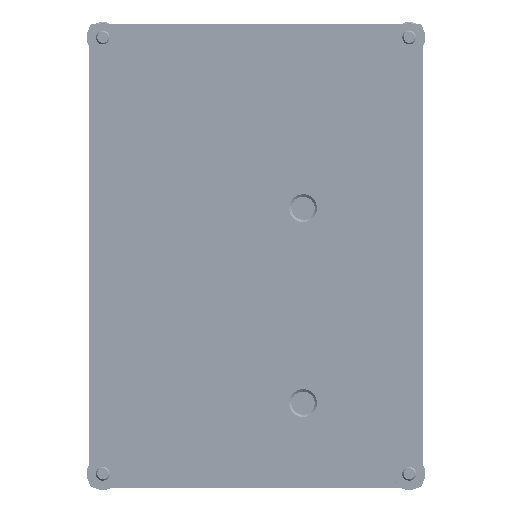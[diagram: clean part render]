
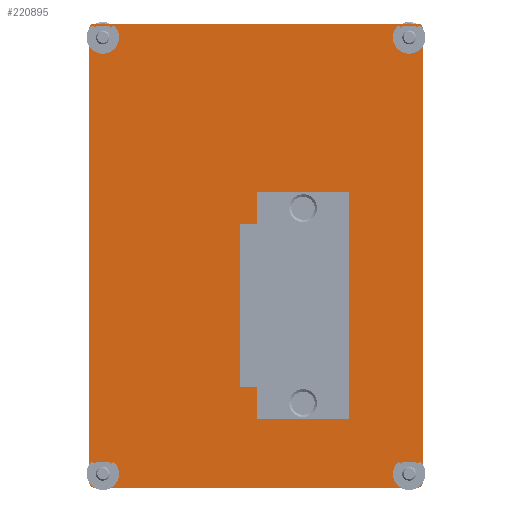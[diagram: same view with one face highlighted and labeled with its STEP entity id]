
A CAD part, front view. The second image highlights one B-rep face of the part: STEP entity #220895.
In plain terms, the highlighted planar face has unit normal (0, -1, 0).
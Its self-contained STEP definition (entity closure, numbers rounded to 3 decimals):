
#22=DIRECTION('',(1.,0.,0.));
#23=VECTOR('',#22,69.8);
#24=CARTESIAN_POINT('',(151.886,135.785,0.));
#25=LINE('',#24,#23);
#8682=DIRECTION('',(1.,0.,0.));
#8683=VECTOR('',#8682,69.8);
#8684=CARTESIAN_POINT('',(151.886,135.785,100.));
#8685=LINE('',#8684,#8683);
#8711=CARTESIAN_POINT('',(153.786,135.785,97.));
#8712=DIRECTION('',(0.,1.,0.));
#8713=DIRECTION('',(0.,0.,-1.));
#8714=AXIS2_PLACEMENT_3D('',#8711,#8712,#8713);
#8716=CARTESIAN_POINT('',(153.786,135.785,97.));
#8717=DIRECTION('',(0.,1.,0.));
#8718=DIRECTION('',(0.,0.,1.));
#8719=AXIS2_PLACEMENT_3D('',#8716,#8717,#8718);
#8721=CARTESIAN_POINT('',(153.786,135.785,3.));
#8722=DIRECTION('',(0.,1.,0.));
#8723=DIRECTION('',(0.,0.,-1.));
#8724=AXIS2_PLACEMENT_3D('',#8721,#8722,#8723);
#8726=CARTESIAN_POINT('',(153.786,135.785,3.));
#8727=DIRECTION('',(0.,1.,0.));
#8728=DIRECTION('',(0.,0.,1.));
#8729=AXIS2_PLACEMENT_3D('',#8726,#8727,#8728);
#8731=CARTESIAN_POINT('',(219.786,135.785,3.));
#8732=DIRECTION('',(0.,1.,0.));
#8733=DIRECTION('',(0.,0.,-1.));
#8734=AXIS2_PLACEMENT_3D('',#8731,#8732,#8733);
#8736=CARTESIAN_POINT('',(219.786,135.785,3.));
#8737=DIRECTION('',(0.,1.,0.));
#8738=DIRECTION('',(0.,0.,1.));
#8739=AXIS2_PLACEMENT_3D('',#8736,#8737,#8738);
#8741=CARTESIAN_POINT('',(219.786,135.785,97.));
#8742=DIRECTION('',(0.,1.,0.));
#8743=DIRECTION('',(0.,0.,-1.));
#8744=AXIS2_PLACEMENT_3D('',#8741,#8742,#8743);
#8746=CARTESIAN_POINT('',(219.786,135.785,97.));
#8747=DIRECTION('',(0.,1.,0.));
#8748=DIRECTION('',(0.,0.,1.));
#8749=AXIS2_PLACEMENT_3D('',#8746,#8747,#8748);
#8751=CARTESIAN_POINT('',(221.686,135.785,99.));
#8752=DIRECTION('',(0.,-1.,0.));
#8753=DIRECTION('',(1.,0.,0.));
#8754=AXIS2_PLACEMENT_3D('',#8751,#8752,#8753);
#8756=DIRECTION('',(0.,0.,1.));
#8757=VECTOR('',#8756,98.);
#8758=CARTESIAN_POINT('',(222.686,135.785,1.));
#8759=LINE('',#8758,#8757);
#8760=CARTESIAN_POINT('',(221.686,135.785,1.));
#8761=DIRECTION('',(0.,-1.,0.));
#8762=DIRECTION('',(0.,0.,-1.));
#8763=AXIS2_PLACEMENT_3D('',#8760,#8761,#8762);
#8765=CARTESIAN_POINT('',(151.886,135.785,1.));
#8766=DIRECTION('',(0.,-1.,0.));
#8767=DIRECTION('',(-1.,0.,0.));
#8768=AXIS2_PLACEMENT_3D('',#8765,#8766,#8767);
#8770=DIRECTION('',(0.,0.,1.));
#8771=VECTOR('',#8770,98.);
#8772=CARTESIAN_POINT('',(150.886,135.785,1.));
#8773=LINE('',#8772,#8771);
#8774=CARTESIAN_POINT('',(151.886,135.785,99.));
#8775=DIRECTION('',(0.,-1.,0.));
#8776=DIRECTION('',(0.,0.,1.));
#8777=AXIS2_PLACEMENT_3D('',#8774,#8775,#8776);
#8779=CARTESIAN_POINT('',(196.926,135.785,18.21));
#8780=DIRECTION('',(0.,-1.,0.));
#8781=DIRECTION('',(0.,0.,1.));
#8782=AXIS2_PLACEMENT_3D('',#8779,#8780,#8781);
#8784=CARTESIAN_POINT('',(196.926,135.785,18.21));
#8785=DIRECTION('',(0.,-1.,0.));
#8786=DIRECTION('',(0.,0.,-1.));
#8787=AXIS2_PLACEMENT_3D('',#8784,#8785,#8786);
#8789=CARTESIAN_POINT('',(196.926,135.785,60.21));
#8790=DIRECTION('',(0.,-1.,0.));
#8791=DIRECTION('',(0.,0.,1.));
#8792=AXIS2_PLACEMENT_3D('',#8789,#8790,#8791);
#8794=CARTESIAN_POINT('',(196.926,135.785,60.21));
#8795=DIRECTION('',(0.,-1.,0.));
#8796=DIRECTION('',(0.,0.,-1.));
#8797=AXIS2_PLACEMENT_3D('',#8794,#8795,#8796);
#166366=CARTESIAN_POINT('',(153.786,135.785,94.95));
#166367=CARTESIAN_POINT('',(153.786,135.785,99.05));
#166368=VERTEX_POINT('',#166366);
#166369=VERTEX_POINT('',#166367);
#166370=CARTESIAN_POINT('',(153.786,135.785,0.95));
#166371=CARTESIAN_POINT('',(153.786,135.785,5.05));
#166372=VERTEX_POINT('',#166370);
#166373=VERTEX_POINT('',#166371);
#166374=CARTESIAN_POINT('',(219.786,135.785,0.95));
#166375=CARTESIAN_POINT('',(219.786,135.785,5.05));
#166376=VERTEX_POINT('',#166374);
#166377=VERTEX_POINT('',#166375);
#166378=CARTESIAN_POINT('',(219.786,135.785,94.95));
#166379=CARTESIAN_POINT('',(219.786,135.785,99.05));
#166380=VERTEX_POINT('',#166378);
#166381=VERTEX_POINT('',#166379);
#166386=CARTESIAN_POINT('',(222.686,135.785,99.));
#166387=CARTESIAN_POINT('',(221.686,135.785,100.));
#166388=VERTEX_POINT('',#166386);
#166389=VERTEX_POINT('',#166387);
#166390=CARTESIAN_POINT('',(221.686,135.785,0.));
#166391=CARTESIAN_POINT('',(222.686,135.785,1.));
#166392=VERTEX_POINT('',#166390);
#166393=VERTEX_POINT('',#166391);
#166398=CARTESIAN_POINT('',(150.886,135.785,1.));
#166399=CARTESIAN_POINT('',(151.886,135.785,0.));
#166400=VERTEX_POINT('',#166398);
#166401=VERTEX_POINT('',#166399);
#166402=CARTESIAN_POINT('',(151.886,135.785,100.));
#166403=CARTESIAN_POINT('',(150.886,135.785,99.));
#166404=VERTEX_POINT('',#166402);
#166405=VERTEX_POINT('',#166403);
#166414=CARTESIAN_POINT('',(196.926,135.785,19.71));
#166415=CARTESIAN_POINT('',(196.926,135.785,16.71));
#166416=VERTEX_POINT('',#166414);
#166417=VERTEX_POINT('',#166415);
#166418=CARTESIAN_POINT('',(196.926,135.785,61.71));
#166419=CARTESIAN_POINT('',(196.926,135.785,58.71));
#166420=VERTEX_POINT('',#166418);
#166421=VERTEX_POINT('',#166419);
#220840=CARTESIAN_POINT('',(139.286,135.785,0.));
#220841=DIRECTION('',(0.,-1.,0.));
#220842=DIRECTION('',(1.,0.,0.));
#220843=AXIS2_PLACEMENT_3D('',#220840,#220841,#220842);
#220844=PLANE('',#220843);
#220846=ORIENTED_EDGE('',*,*,#220845,.F.);
#220848=ORIENTED_EDGE('',*,*,#220847,.F.);
#220850=ORIENTED_EDGE('',*,*,#220849,.F.);
#220851=ORIENTED_EDGE('',*,*,#212933,.F.);
#220853=ORIENTED_EDGE('',*,*,#220852,.F.);
#220854=ORIENTED_EDGE('',*,*,#214916,.T.);
#220855=ORIENTED_EDGE('',*,*,#220834,.F.);
#220856=ORIENTED_EDGE('',*,*,#220771,.T.);
#220857=EDGE_LOOP('',(#220846,#220848,#220850,#220851,#220853,#220854,#220855,
#220856));
#220858=FACE_OUTER_BOUND('',#220857,.F.);
#220860=ORIENTED_EDGE('',*,*,#220859,.F.);
#220862=ORIENTED_EDGE('',*,*,#220861,.F.);
#220863=EDGE_LOOP('',(#220860,#220862));
#220864=FACE_BOUND('',#220863,.F.);
#220866=ORIENTED_EDGE('',*,*,#220865,.F.);
#220868=ORIENTED_EDGE('',*,*,#220867,.F.);
#220869=EDGE_LOOP('',(#220866,#220868));
#220870=FACE_BOUND('',#220869,.F.);
#220872=ORIENTED_EDGE('',*,*,#220871,.F.);
#220874=ORIENTED_EDGE('',*,*,#220873,.F.);
#220875=EDGE_LOOP('',(#220872,#220874));
#220876=FACE_BOUND('',#220875,.F.);
#220878=ORIENTED_EDGE('',*,*,#220877,.F.);
#220880=ORIENTED_EDGE('',*,*,#220879,.F.);
#220881=EDGE_LOOP('',(#220878,#220880));
#220882=FACE_BOUND('',#220881,.F.);
#220884=ORIENTED_EDGE('',*,*,#220883,.T.);
#220886=ORIENTED_EDGE('',*,*,#220885,.T.);
#220887=EDGE_LOOP('',(#220884,#220886));
#220888=FACE_BOUND('',#220887,.F.);
#220890=ORIENTED_EDGE('',*,*,#220889,.T.);
#220892=ORIENTED_EDGE('',*,*,#220891,.T.);
#220893=EDGE_LOOP('',(#220890,#220892));
#220894=FACE_BOUND('',#220893,.F.);
#220895=ADVANCED_FACE('',(#220858,#220864,#220870,#220876,#220882,#220888,
#220894),#220844,.T.);
#8715=CIRCLE('',#8714,2.05);
#8720=CIRCLE('',#8719,2.05);
#8725=CIRCLE('',#8724,2.05);
#8730=CIRCLE('',#8729,2.05);
#8735=CIRCLE('',#8734,2.05);
#8740=CIRCLE('',#8739,2.05);
#8745=CIRCLE('',#8744,2.05);
#8750=CIRCLE('',#8749,2.05);
#8755=CIRCLE('',#8754,1.);
#8764=CIRCLE('',#8763,1.);
#8769=CIRCLE('',#8768,1.);
#8778=CIRCLE('',#8777,1.);
#8783=CIRCLE('',#8782,1.5);
#8788=CIRCLE('',#8787,1.5);
#8793=CIRCLE('',#8792,1.5);
#8798=CIRCLE('',#8797,1.5);
#212933=EDGE_CURVE('',#166401,#166392,#25,.T.);
#214916=EDGE_CURVE('',#166400,#166405,#8773,.T.);
#220771=EDGE_CURVE('',#166404,#166389,#8685,.T.);
#220834=EDGE_CURVE('',#166404,#166405,#8778,.T.);
#220845=EDGE_CURVE('',#166388,#166389,#8755,.T.);
#220847=EDGE_CURVE('',#166393,#166388,#8759,.T.);
#220849=EDGE_CURVE('',#166392,#166393,#8764,.T.);
#220852=EDGE_CURVE('',#166400,#166401,#8769,.T.);
#220859=EDGE_CURVE('',#166372,#166373,#8725,.T.);
#220861=EDGE_CURVE('',#166373,#166372,#8730,.T.);
#220865=EDGE_CURVE('',#166376,#166377,#8735,.T.);
#220867=EDGE_CURVE('',#166377,#166376,#8740,.T.);
#220871=EDGE_CURVE('',#166380,#166381,#8745,.T.);
#220873=EDGE_CURVE('',#166381,#166380,#8750,.T.);
#220877=EDGE_CURVE('',#166368,#166369,#8715,.T.);
#220879=EDGE_CURVE('',#166369,#166368,#8720,.T.);
#220883=EDGE_CURVE('',#166416,#166417,#8783,.T.);
#220885=EDGE_CURVE('',#166417,#166416,#8788,.T.);
#220889=EDGE_CURVE('',#166420,#166421,#8793,.T.);
#220891=EDGE_CURVE('',#166421,#166420,#8798,.T.);
